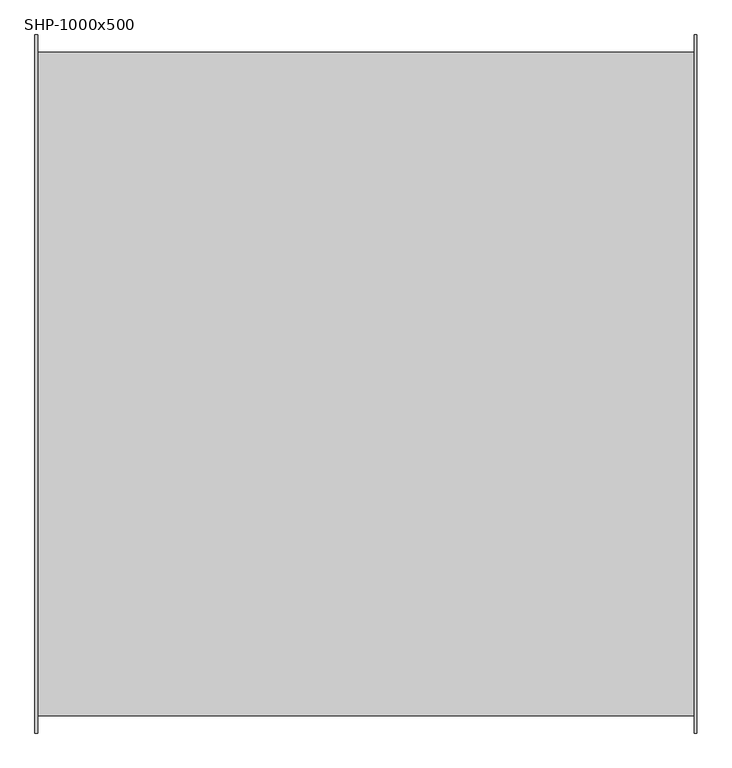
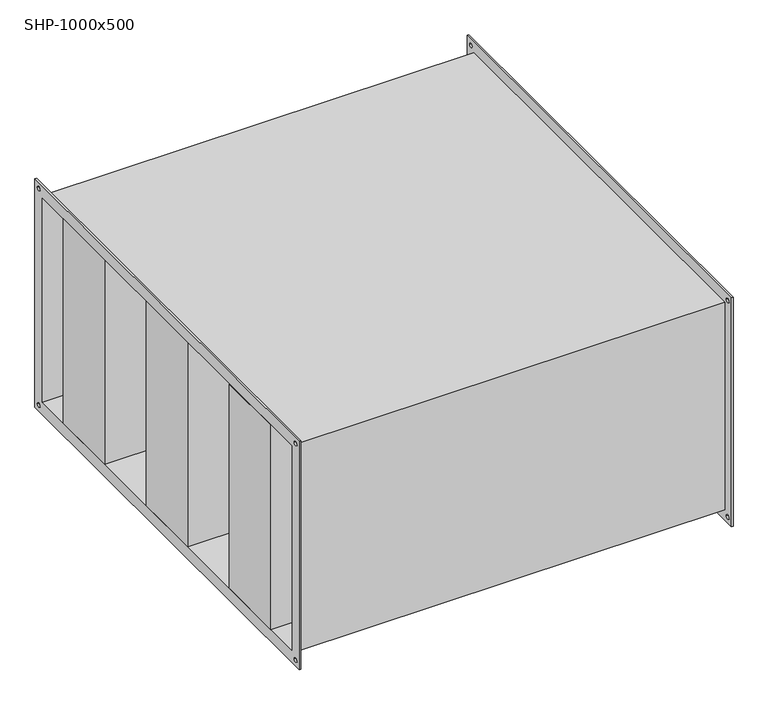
"""IFC4 building model written with IfcOpenShell, lengths in millimetres: damper geometry, СВ_Шумоглушитель_КанальныйПрямоугольный_200-1000_SHP : SHP-1000x500."""

from ifc_helpers import new_model, si_unit, frame, origin, place, context, project, spatial, polyline, circle_curve, outline, extrude, source, transform, mapped, element, save
from ifc_brep_helpers import plane_surface, revolved_surface, advanced_brep


def shp_1000x500_eaa1802b(model_context):
    return source(origin(), model_context, "Body", "SolidModel", [
        extrude(outline(polyline([(502.5, 416.6666667), (502.5, 250.0), (-502.5, 250.0), (-502.5, 416.6666667), (502.5, 416.6666667)])), frame((0.0, 0.0, -250.0), z_axis=(0.0, 0.0, 1.0), x_axis=(1.0, 0.0, 0.0)), (0.0, 0.0, 1.0), 500.0),
        extrude(outline(polyline([(502.5, 83.3333333), (502.5, -83.3333333), (-502.5, -83.3333333), (-502.5, 83.3333333), (502.5, 83.3333333)])), frame((0.0, 0.0, -250.0), z_axis=(0.0, 0.0, 1.0), x_axis=(1.0, 0.0, 0.0)), (0.0, 0.0, 1.0), 500.0),
        extrude(outline(polyline([(502.5, -250.0), (502.5, -416.6666667), (-502.5, -416.6666667), (-502.5, -250.0), (502.5, -250.0)])), frame((0.0, 0.0, -250.0), z_axis=(0.0, 0.0, 1.0), x_axis=(1.0, 0.0, 0.0)), (0.0, 0.0, 1.0), 500.0),
        advanced_brep(
        [(498.5, -504.0, 254.0), (-498.5, -504.0, 254.0), (-498.5, -504.0, -254.0), (498.5, -504.0, -254.0), (-498.5, 504.0, -254.0), (498.5, 504.0, -254.0), (-498.5, 504.0, 254.0), (498.5, 504.0, 254.0), (-502.5, -530.0, 280.0), (-502.5, 530.0, 280.0), (-502.5, 530.0, -280.0), (-502.5, -530.0, -280.0), (-502.5, -500.0, 250.0), (-502.5, -500.0, -250.0), (-502.5, 500.0, -250.0), (-502.5, 500.0, 250.0), (-502.5, 510.0, 265.0), (-502.5, 520.0, 265.0), (-502.5, -520.0, 265.0), (-502.5, -510.0, 265.0), (-502.5, -520.0, -265.0), (-502.5, -510.0, -265.0), (-502.5, 510.0, -265.0), (-502.5, 520.0, -265.0), (-498.5, -530.0, 280.0), (-498.5, -530.0, -280.0), (-498.5, 530.0, -280.0), (-498.5, 530.0, 280.0), (-498.5, 520.0, 265.0), (-498.5, 510.0, 265.0), (-498.5, -510.0, 265.0), (-498.5, -520.0, 265.0), (-498.5, -510.0, -265.0), (-498.5, -520.0, -265.0), (-498.5, 520.0, -265.0), (-498.5, 510.0, -265.0), (498.5, 530.0, 280.0), (498.5, 530.0, -280.0), (498.5, -530.0, -280.0), (498.5, -530.0, 280.0), (498.5, 510.0, 265.0), (498.5, 520.0, 265.0), (498.5, -520.0, 265.0), (498.5, -510.0, 265.0), (498.5, -520.0, -265.0), (498.5, -510.0, -265.0), (498.5, 510.0, -265.0), (498.5, 520.0, -265.0), (502.5, 530.0, 280.0), (502.5, -530.0, 280.0), (502.5, -530.0, -280.0), (502.5, 530.0, -280.0), (502.5, 500.0, 250.0), (502.5, 500.0, -250.0), (502.5, -500.0, -250.0), (502.5, -500.0, 250.0), (502.5, 520.0, 265.0), (502.5, 510.0, 265.0), (502.5, -510.0, 265.0), (502.5, -520.0, 265.0), (502.5, -510.0, -265.0), (502.5, -520.0, -265.0), (502.5, 520.0, -265.0), (502.5, 510.0, -265.0)],
        [
            (0, 1),
            (1, 2),
            (2, 3),
            (3, 0),
            (2, 4),
            (4, 5),
            (5, 3),
            (4, 6),
            (6, 7),
            (7, 5),
            (0, 7),
            (6, 1),
            (8, 9),
            (9, 10),
            (10, 11),
            (11, 8),
            (12, 13),
            (13, 14),
            (14, 15),
            (15, 12),
            (16, 17, circle_curve(frame((-502.5, 515.0, 265.0), z_axis=(1.0, 0.0, 0.0), x_axis=(0.0, 1.0, 0.0)), 5.0)),
            (17, 16, circle_curve(frame((-502.5, 515.0, 265.0), z_axis=(1.0, 0.0, 0.0), x_axis=(0.0, 1.0, 0.0)), 5.0)),
            (18, 19, circle_curve(frame((-502.5, -515.0, 265.0), z_axis=(1.0, 0.0, 0.0), x_axis=(0.0, 1.0, 0.0)), 5.0)),
            (19, 18, circle_curve(frame((-502.5, -515.0, 265.0), z_axis=(1.0, 0.0, 0.0), x_axis=(0.0, 1.0, 0.0)), 5.0)),
            (20, 21, circle_curve(frame((-502.5, -515.0, -265.0), z_axis=(1.0, 0.0, 0.0), x_axis=(0.0, 1.0, 0.0)), 5.0)),
            (21, 20, circle_curve(frame((-502.5, -515.0, -265.0), z_axis=(1.0, 0.0, 0.0), x_axis=(0.0, 1.0, 0.0)), 5.0)),
            (22, 23, circle_curve(frame((-502.5, 515.0, -265.0), z_axis=(1.0, 0.0, 0.0), x_axis=(0.0, 1.0, 0.0)), 5.0)),
            (23, 22, circle_curve(frame((-502.5, 515.0, -265.0), z_axis=(1.0, 0.0, 0.0), x_axis=(0.0, 1.0, 0.0)), 5.0)),
            (24, 25),
            (25, 26),
            (26, 27),
            (27, 24),
            (28, 29, circle_curve(frame((-498.5, 515.0, 265.0), z_axis=(-1.0, 0.0, 0.0), x_axis=(0.0, 1.0, 0.0)), 5.0)),
            (29, 28, circle_curve(frame((-498.5, 515.0, 265.0), z_axis=(-1.0, 0.0, 0.0), x_axis=(0.0, 1.0, 0.0)), 5.0)),
            (30, 31, circle_curve(frame((-498.5, -515.0, 265.0), z_axis=(-1.0, 0.0, 0.0), x_axis=(0.0, 1.0, 0.0)), 5.0)),
            (31, 30, circle_curve(frame((-498.5, -515.0, 265.0), z_axis=(-1.0, 0.0, 0.0), x_axis=(0.0, 1.0, 0.0)), 5.0)),
            (32, 33, circle_curve(frame((-498.5, -515.0, -265.0), z_axis=(-1.0, 0.0, 0.0), x_axis=(0.0, 1.0, 0.0)), 5.0)),
            (33, 32, circle_curve(frame((-498.5, -515.0, -265.0), z_axis=(-1.0, 0.0, 0.0), x_axis=(0.0, 1.0, 0.0)), 5.0)),
            (34, 35, circle_curve(frame((-498.5, 515.0, -265.0), z_axis=(-1.0, 0.0, 0.0), x_axis=(0.0, 1.0, 0.0)), 5.0)),
            (35, 34, circle_curve(frame((-498.5, 515.0, -265.0), z_axis=(-1.0, 0.0, 0.0), x_axis=(0.0, 1.0, 0.0)), 5.0)),
            (11, 25),
            (24, 8),
            (10, 26),
            (9, 27),
            (36, 37),
            (37, 38),
            (38, 39),
            (39, 36),
            (40, 41, circle_curve(frame((498.5, 515.0, 265.0), z_axis=(1.0, 0.0, 0.0), x_axis=(0.0, 1.0, 0.0)), 5.0)),
            (41, 40, circle_curve(frame((498.5, 515.0, 265.0), z_axis=(1.0, 0.0, 0.0), x_axis=(0.0, 1.0, 0.0)), 5.0)),
            (42, 43, circle_curve(frame((498.5, -515.0, 265.0), z_axis=(1.0, 0.0, 0.0), x_axis=(0.0, 1.0, 0.0)), 5.0)),
            (43, 42, circle_curve(frame((498.5, -515.0, 265.0), z_axis=(1.0, 0.0, 0.0), x_axis=(0.0, 1.0, 0.0)), 5.0)),
            (44, 45, circle_curve(frame((498.5, -515.0, -265.0), z_axis=(1.0, 0.0, 0.0), x_axis=(0.0, 1.0, 0.0)), 5.0)),
            (45, 44, circle_curve(frame((498.5, -515.0, -265.0), z_axis=(1.0, 0.0, 0.0), x_axis=(0.0, 1.0, 0.0)), 5.0)),
            (46, 47, circle_curve(frame((498.5, 515.0, -265.0), z_axis=(1.0, 0.0, 0.0), x_axis=(0.0, 1.0, 0.0)), 5.0)),
            (47, 46, circle_curve(frame((498.5, 515.0, -265.0), z_axis=(1.0, 0.0, 0.0), x_axis=(0.0, 1.0, 0.0)), 5.0)),
            (48, 49),
            (49, 50),
            (50, 51),
            (51, 48),
            (52, 53),
            (53, 54),
            (54, 55),
            (55, 52),
            (56, 57, circle_curve(frame((502.5, 515.0, 265.0), z_axis=(-1.0, 0.0, 0.0), x_axis=(0.0, 1.0, 0.0)), 5.0)),
            (57, 56, circle_curve(frame((502.5, 515.0, 265.0), z_axis=(-1.0, 0.0, 0.0), x_axis=(0.0, 1.0, 0.0)), 5.0)),
            (58, 59, circle_curve(frame((502.5, -515.0, 265.0), z_axis=(-1.0, 0.0, 0.0), x_axis=(0.0, 1.0, 0.0)), 5.0)),
            (59, 58, circle_curve(frame((502.5, -515.0, 265.0), z_axis=(-1.0, 0.0, 0.0), x_axis=(0.0, 1.0, 0.0)), 5.0)),
            (60, 61, circle_curve(frame((502.5, -515.0, -265.0), z_axis=(-1.0, 0.0, 0.0), x_axis=(0.0, 1.0, 0.0)), 5.0)),
            (61, 60, circle_curve(frame((502.5, -515.0, -265.0), z_axis=(-1.0, 0.0, 0.0), x_axis=(0.0, 1.0, 0.0)), 5.0)),
            (62, 63, circle_curve(frame((502.5, 515.0, -265.0), z_axis=(-1.0, 0.0, 0.0), x_axis=(0.0, 1.0, 0.0)), 5.0)),
            (63, 62, circle_curve(frame((502.5, 515.0, -265.0), z_axis=(-1.0, 0.0, 0.0), x_axis=(0.0, 1.0, 0.0)), 5.0)),
            (39, 49),
            (48, 36),
            (38, 50),
            (37, 51),
            (15, 52),
            (55, 12),
            (14, 53),
            (13, 54),
            (16, 29),
            (28, 17),
            (40, 57),
            (56, 41),
            (18, 31),
            (30, 19),
            (42, 59),
            (58, 43),
            (20, 33),
            (32, 21),
            (44, 61),
            (60, 45),
            (22, 35),
            (34, 23),
            (46, 63),
            (62, 47),
        ],
        [
            plane_surface(frame((498.5, -504.0, 254.0), z_axis=(0.0, -1.0, 0.0), x_axis=(-1.0, 0.0, 0.0))),
            plane_surface(frame((498.5, -504.0, -254.0), z_axis=(0.0, 0.0, -1.0), x_axis=(-1.0, 0.0, 0.0))),
            plane_surface(frame((498.5, 504.0, -254.0), z_axis=(0.0, 1.0, 0.0), x_axis=(-1.0, 0.0, 0.0))),
            plane_surface(frame((498.5, 504.0, 254.0), z_axis=(0.0, 0.0, 1.0), x_axis=(-1.0, 0.0, 0.0))),
            plane_surface(frame((-502.5, -530.0, 280.0), z_axis=(-1.0, 0.0, 0.0), x_axis=(0.0, 0.0, 1.0))),
            plane_surface(frame((-498.5, -530.0, 280.0), z_axis=(1.0, 0.0, 0.0), x_axis=(0.0, 0.0, -1.0))),
            plane_surface(frame((-498.5, -530.0, 280.0), z_axis=(0.0, -1.0, 0.0), x_axis=(-1.0, 0.0, 0.0))),
            plane_surface(frame((-498.5, -530.0, -280.0), z_axis=(0.0, 0.0, -1.0), x_axis=(-1.0, 0.0, 0.0))),
            plane_surface(frame((-498.5, 530.0, -280.0), z_axis=(0.0, 1.0, 0.0), x_axis=(-1.0, 0.0, 0.0))),
            plane_surface(frame((-498.5, 530.0, 280.0), z_axis=(0.0, 0.0, 1.0), x_axis=(-1.0, 0.0, 0.0))),
            plane_surface(frame((498.5, 500.0, -250.0), z_axis=(-1.0, 0.0, 0.0), x_axis=(0.0, 0.0, 1.0))),
            plane_surface(frame((502.5, 500.0, -250.0), z_axis=(1.0, 0.0, 0.0), x_axis=(0.0, 0.0, -1.0))),
            plane_surface(frame((502.5, 530.0, 280.0), z_axis=(0.0, 0.0, 1.0), x_axis=(-1.0, 0.0, 0.0))),
            plane_surface(frame((502.5, -530.0, 280.0), z_axis=(0.0, -1.0, 0.0), x_axis=(-1.0, 0.0, 0.0))),
            plane_surface(frame((502.5, -530.0, -280.0), z_axis=(0.0, 0.0, -1.0), x_axis=(-1.0, 0.0, 0.0))),
            plane_surface(frame((502.5, 530.0, -280.0), z_axis=(0.0, 1.0, 0.0), x_axis=(-1.0, 0.0, 0.0))),
            plane_surface(frame((-498.5, -500.0, 250.0), z_axis=(0.0, 0.0, -1.0), x_axis=(-1.0, 0.0, 0.0))),
            plane_surface(frame((-498.5, 500.0, 250.0), z_axis=(0.0, -1.0, 0.0), x_axis=(-1.0, 0.0, 0.0))),
            plane_surface(frame((-498.5, 500.0, -250.0), z_axis=(0.0, 0.0, 1.0), x_axis=(-1.0, 0.0, 0.0))),
            plane_surface(frame((-498.5, -500.0, -250.0), z_axis=(0.0, 1.0, 0.0), x_axis=(-1.0, 0.0, 0.0))),
            revolved_surface(polyline([(-498.5, 520.0, 265.0), (-502.5, 520.0, 265.0)]), (-502.5, 515.0, 265.0), (1.0, 0.0, 0.0)),
            revolved_surface(polyline([(502.5, 520.0, 265.0), (498.5, 520.0, 265.0)]), (-502.5, 515.0, 265.0), (1.0, 0.0, 0.0)),
            revolved_surface(polyline([(-498.5, -510.0, 265.0), (-502.5, -510.0, 265.0)]), (0.0, -515.0, 265.0), (1.0, 0.0, 0.0)),
            revolved_surface(polyline([(502.5, -510.0, 265.0), (498.5, -510.0, 265.0)]), (0.0, -515.0, 265.0), (1.0, 0.0, 0.0)),
            revolved_surface(polyline([(-498.5, -510.0, -265.0), (-502.5, -510.0, -265.0)]), (0.0, -515.0, -265.0), (1.0, 0.0, 0.0)),
            revolved_surface(polyline([(502.5, -510.0, -265.0), (498.5, -510.0, -265.0)]), (0.0, -515.0, -265.0), (1.0, 0.0, 0.0)),
            revolved_surface(polyline([(-498.5, 520.0, -265.0), (-502.5, 520.0, -265.0)]), (0.0, 515.0, -265.0), (1.0, 0.0, 0.0)),
            revolved_surface(polyline([(502.5, 520.0, -265.0), (498.5, 520.0, -265.0)]), (0.0, 515.0, -265.0), (1.0, 0.0, 0.0)),
        ],
        [
            (0, [[1, 2, 3, 4]]),
            (1, [[-3, 5, 6, 7]]),
            (2, [[-6, 8, 9, 10]]),
            (3, [[-1, 11, -9, 12]]),
            (4, [[13, 14, 15, 16], [17, 18, 19, 20], [21, 22], [23, 24], [25, 26], [27, 28]]),
            (5, [[29, 30, 31, 32], [-2, -12, -8, -5], [33, 34], [35, 36], [37, 38], [39, 40]]),
            (6, [[-16, 41, -29, 42]]),
            (7, [[-15, 43, -30, -41]]),
            (8, [[-14, 44, -31, -43]]),
            (9, [[-13, -42, -32, -44]]),
            (10, [[45, 46, 47, 48], [-4, -7, -10, -11], [49, 50], [51, 52], [53, 54], [55, 56]]),
            (11, [[57, 58, 59, 60], [61, 62, 63, 64], [65, 66], [67, 68], [69, 70], [71, 72]]),
            (12, [[-48, 73, -57, 74]]),
            (13, [[-47, 75, -58, -73]]),
            (14, [[-46, 76, -59, -75]]),
            (15, [[-45, -74, -60, -76]]),
            (16, [[-20, 77, -64, 78]]),
            (17, [[-77, -19, 79, -61]]),
            (18, [[-79, -18, 80, -62]]),
            (19, [[-80, -17, -78, -63]]),
            (20, [[81, -33, 82, -21]]),
            (21, [[83, -65, 84, -49]]),
            (20, [[-81, -22, -82, -34]]),
            (21, [[-83, -50, -84, -66]]),
            (22, [[85, -35, 86, -23]]),
            (23, [[87, -67, 88, -51]]),
            (22, [[-85, -24, -86, -36]]),
            (23, [[-87, -52, -88, -68]]),
            (24, [[89, -37, 90, -25]]),
            (25, [[91, -69, 92, -53]]),
            (24, [[-89, -26, -90, -38]]),
            (25, [[-91, -54, -92, -70]]),
            (26, [[93, -39, 94, -27]]),
            (27, [[95, -71, 96, -55]]),
            (26, [[-93, -28, -94, -40]]),
            (27, [[-95, -56, -96, -72]]),
        ],
    ),
    ])


if __name__ == "__main__":
    model = new_model("IFC4")
    model_context = context("Model", 3, world=origin())
    ifc_project = project(units=[si_unit("LENGTHUNIT", "METRE", prefix="MILLI")], contexts=[model_context])
    site = spatial("IfcSite", under=ifc_project)
    building = spatial("IfcBuilding", under=site)
    placement = place(None, origin())
    shp_1000x500_shape = shp_1000x500_eaa1802b(model_context)
    element("IfcDamper", 1, ObjectType="СВ_Шумоглушитель_КанальныйПрямоугольный_200-1000_SHP : SHP-1000x500", at=placement, inside=building, context=model_context, shape_type="MappedRepresentation", body=[
        mapped(shp_1000x500_shape, transform((0.0, 0.0, 0.0), x_axis=(1.0, 0.0, 0.0), y_axis=(0.0, 1.0, 0.0), z_axis=(0.0, 0.0, 1.0))),
    ])
    save(model, "model.ifc")
